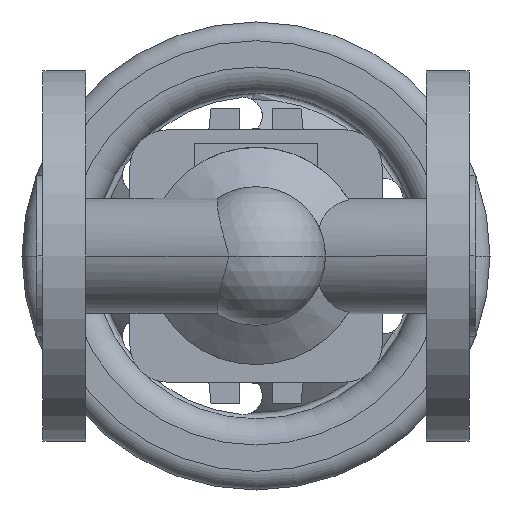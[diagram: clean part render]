
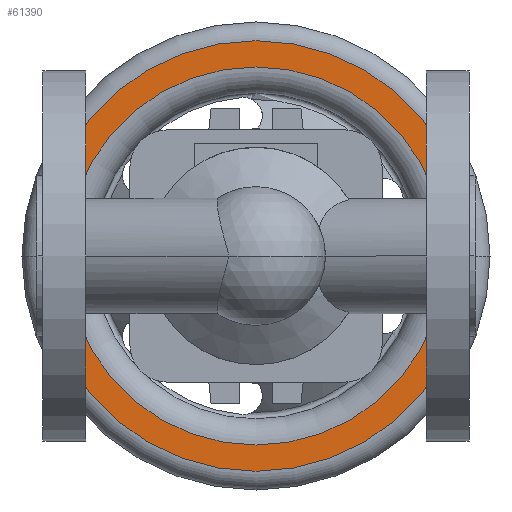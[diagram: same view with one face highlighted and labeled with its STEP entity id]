
A CAD part, front view. The second image highlights one B-rep face of the part: STEP entity #61390.
In plain terms, the highlighted planar face has unit normal (0, -1, 0).
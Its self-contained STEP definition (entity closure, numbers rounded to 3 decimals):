
#60780=CARTESIAN_POINT('',(116.,202.8,0.));
#60790=VERTEX_POINT('',#60780);
#60820=CARTESIAN_POINT('',(58.5,202.8,0.));
#60830=DIRECTION('',(0.,1.,0.));
#60840=DIRECTION('',(-1.,0.,0.));
#60850=AXIS2_PLACEMENT_3D('',#60820,#60830,#60840);
#60860=CIRCLE('',#60850,57.5);
#60870=CARTESIAN_POINT('',(58.5,202.8,57.5));
#60880=VERTEX_POINT('',#60870);
#60890=EDGE_CURVE('',#60880,#60790,#60860,.T.);
#60910=CARTESIAN_POINT('',(1.,202.8,0.));
#60920=VERTEX_POINT('',#60910);
#60930=EDGE_CURVE('',#60920,#60880,#60860,.T.);
#61130=CARTESIAN_POINT('',(4.5,202.8,0.));
#61140=DIRECTION('',(0.,-1.,0.));
#61150=DIRECTION('',(1.,0.,0.));
#61160=AXIS2_PLACEMENT_3D('',#61130,#61140,#61150);
#61170=PLANE('',#61160);
#61180=ORIENTED_EDGE('',*,*,#60890,.F.);
#61190=EDGE_CURVE('',#60790,#60920,#60860,.T.);
#61200=ORIENTED_EDGE('',*,*,#61190,.F.);
#61210=ORIENTED_EDGE('',*,*,#60930,.F.);
#61220=EDGE_LOOP('',(#61210,#61200,#61180));
#61230=FACE_OUTER_BOUND('',#61220,.T.);
#61240=CARTESIAN_POINT('',(58.5,202.8,0.));
#61250=DIRECTION('',(0.,1.,0.));
#61260=DIRECTION('',(-1.,0.,0.));
#61270=AXIS2_PLACEMENT_3D('',#61240,#61250,#61260);
#61280=CIRCLE('',#61270,50.5);
#61290=CARTESIAN_POINT('',(8.,202.8,0.));
#61300=VERTEX_POINT('',#61290);
#61310=CARTESIAN_POINT('',(109.,202.8,0.));
#61320=VERTEX_POINT('',#61310);
#61330=EDGE_CURVE('',#61300,#61320,#61280,.T.);
#61340=ORIENTED_EDGE('',*,*,#61330,.T.);
#61350=EDGE_CURVE('',#61320,#61300,#61280,.T.);
#61360=ORIENTED_EDGE('',*,*,#61350,.T.);
#61370=EDGE_LOOP('',(#61360,#61340));
#61380=FACE_BOUND('',#61370,.T.);
#61390=ADVANCED_FACE('',(#61230,#61380),#61170,.T.);
